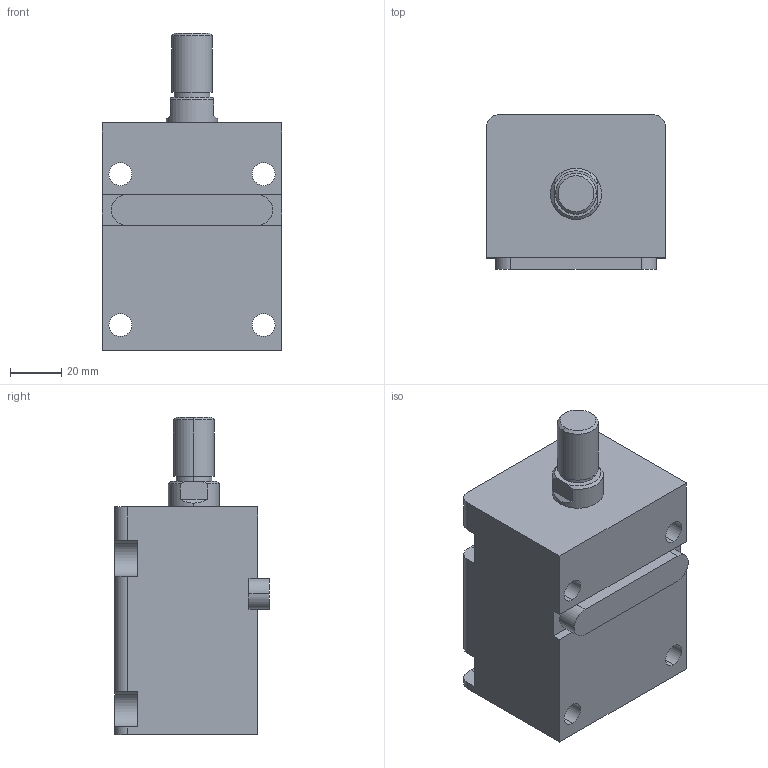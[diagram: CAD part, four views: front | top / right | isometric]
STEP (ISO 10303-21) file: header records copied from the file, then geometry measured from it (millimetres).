
FILE_DESCRIPTION (( 'STEP AP203' ), '1' );
FILE_NAME ('HTB-LA32-35W.STEP', '2019-10-09T06:27:33', ( '微软用户' ), ( '微软中国' ), 'SwSTEP 2.0', 'SolidWorks 2012', '' );
FILE_SCHEMA (( 'CONFIG_CONTROL_DESIGN' ));
Length unit declared in the file: millimetre
Products named in the file (4): HTB-LA32-35W活塞杆; HTB-LA32-瑩; HTB-LA32-35掛极; HTB-LA32-35W
Assembly tree (3 placements, depth 2):
  HTB-LA32-35W
    HTB-LA32-35掛极
    HTB-LA32-35W活塞杆
    HTB-LA32-瑩
Bounding box: 70 x 60.5 x 124 mm (x, y, z)
Volume: 321533.1 mm3; surface area: 56201.4 mm2
Topology: 3 solids, 3 shells, 92 faces, 223 edges, 146 vertices
Faces by surface type: plane 41, cylinder 37, cone 8, torus 6
Entity records: 3159 total; most frequent: DIRECTION 509, CARTESIAN_POINT 495, ORIENTED_EDGE 446, EDGE_CURVE 223, AXIS2_PLACEMENT_3D 196, VERTEX_POINT 146, LINE 117, VECTOR 117
